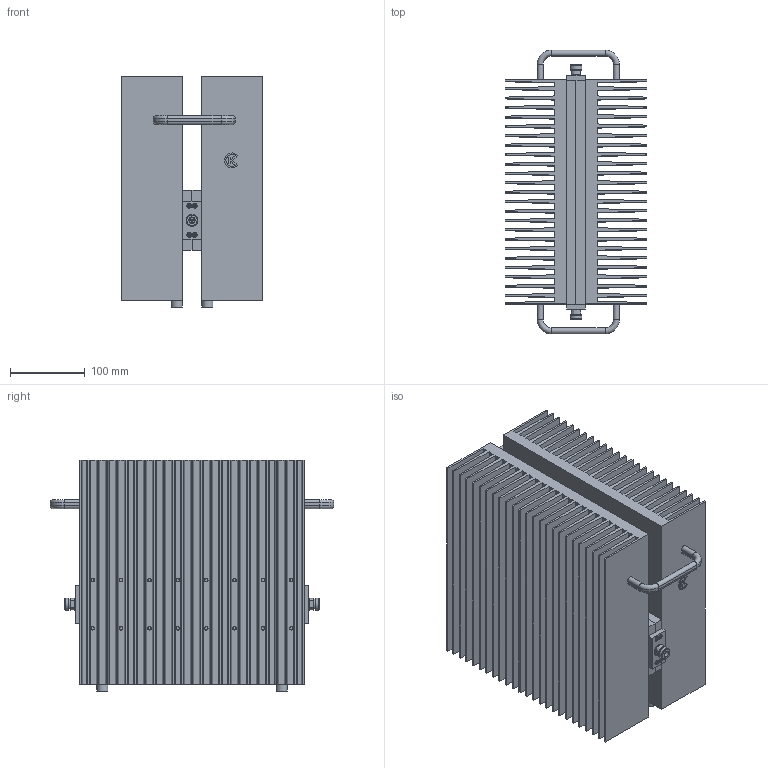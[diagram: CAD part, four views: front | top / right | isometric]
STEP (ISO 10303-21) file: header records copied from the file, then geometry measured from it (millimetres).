
FILE_DESCRIPTION(('STEP AP203'), '1');
FILE_NAME('ÏÐ1-25-1000', '', ('UNSPECIFIED'), ('UNSPECIFIED'), 'C3D Converter', 'C3D Toolkit', '');
FILE_SCHEMA(('CONFIG_CONTROL_DESIGN'));
Length unit declared in the file: millimetre
Products named in the file (15): -01
Assembly tree (53 placements, depth 3):
  (unnamed)
    (unnamed)
    (unnamed)
    (unnamed)  x2
    (unnamed)  x2
    (unnamed)  x2
    (unnamed)
      (unnamed)
      (unnamed)
      (unnamed)  x10
    (unnamed)  x4
    (unnamed)  x16
    (unnamed)  x2
    (unnamed)  x8
    (unnamed)
    -01
Bounding box: 189 x 380 x 310 mm (x, y, z)
Volume: 6914261.8 mm3; surface area: 2551178.7 mm2
Topology: 52 solids, 52 shells, 1184 faces, 2830 edges, 1830 vertices
Faces by surface type: plane 736, cylinder 274, torus 88, cone 86
Full cylindrical faces by diameter (mm): 1.66 x2, 3 x16, 3.04 x2, 3.242 x8, 4.917 x26, 5 x14, 5.5 x12, 6 x16, 6.2 x16, 6.5 x50, 7 x2, 8.06 x2, 8.5 x18, 10 x16, 11 x26, 11.6 x2, 14 x4, 15 x4, 15.87 x2, 16 x4
Entity records: 24248 total; most frequent: CARTESIAN_POINT 3917, DIRECTION 3038, ORIENTED_EDGE 2748, EDGE_CURVE 1374, AXIS2_PLACEMENT_3D 1087, VERTEX_POINT 1016, EDGE_LOOP 1006, LINE 864
